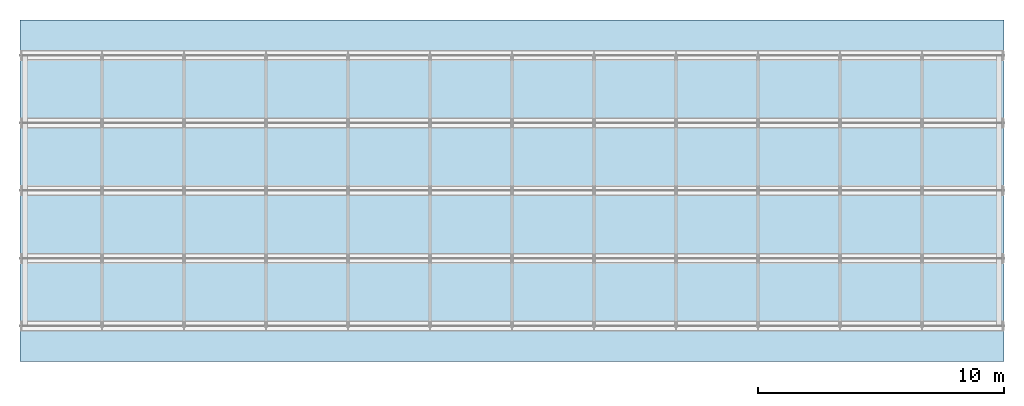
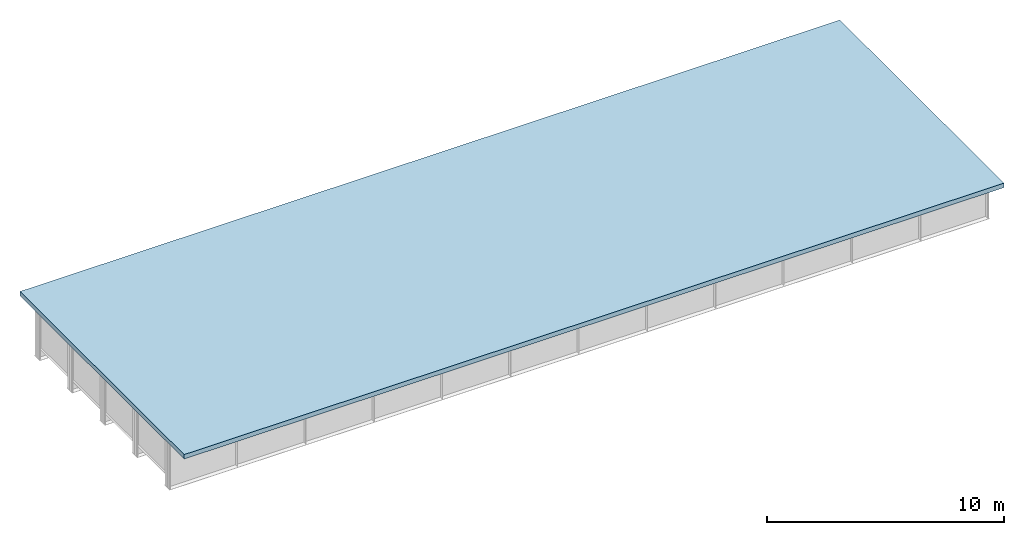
# One storey, part 12 of 19: 1 slab.
"""IFC4 building model written with IfcOpenShell, lengths in metres."""

from ifc_helpers import new_model, si_unit, frame, origin, origin_with_axes, place, context, subcontext, project, spatial, polyline, outline, extrude, element, save


model = new_model("IFC4")

# Units and contexts
model_context = context("Model", 3, precision=1e-05, world=origin())
body_context = subcontext(model_context, "Body", "Model", "MODEL_VIEW")
ifc_project = project(units=[si_unit("LENGTHUNIT", "METRE"), si_unit("AREAUNIT", "SQUARE_METRE"), si_unit("VOLUMEUNIT", "CUBIC_METRE"), si_unit("PLANEANGLEUNIT", "RADIAN")], contexts=[model_context])

# Site, building, storey
site_placement = place(None, origin_with_axes())
site = spatial("IfcSite", under=ifc_project, at=site_placement, Name="Default Site")
building_placement = place(site_placement, origin_with_axes())
building = spatial("IfcBuilding", under=site, at=building_placement, Name="Bridge Structure")
storey_placement = place(building_placement, origin_with_axes())
storey = spatial("IfcBuildingStorey", under=building, at=storey_placement, Name="Superstructure")

# Slab
slab_placement = place(storey_placement, frame((0.0, 0.0, 1.173), z_axis=(0.0, 0.0, 1.0), x_axis=(1.0, 0.0, 0.0)))
element("IfcSlab", 1, at=slab_placement, inside=storey, Name="Deck Slab", context=body_context, shape_type="SweptSolid", body=[
    extrude(outline(polyline([(0.0, -6.9375), (40.0, -6.9375), (40.0, 6.9375), (0.0, 6.9375), (0.0, -6.9375)])), origin_with_axes(), (0.0, 0.0, 1.0), 0.23),
])

save(model, "model.ifc")
